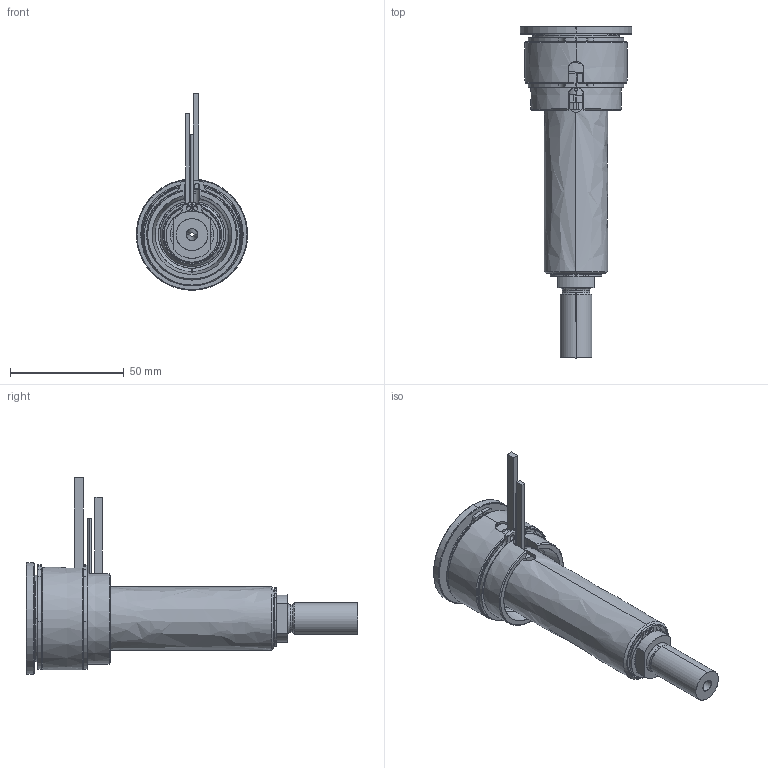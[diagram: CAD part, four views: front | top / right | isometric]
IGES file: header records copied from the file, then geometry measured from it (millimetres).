
Start section: SolidWorks IGES file using analytic representation for surfaces
Global section: file name: C:\Documents and Settings\ws-20\Desktop\TEM\UGBE4502-S-A-P-3 [Ød-2.0 P-25 ØC-09].IGS; native system: SolidWorks 2012; preprocessor: SolidWorks 2012; author: ws-20; date: 120412.153057; units: millimetre
Bounding box: 49 x 146 x 86.5 mm (x, y, z)
Surface area: 49333.3 mm2 (no closed solid volume)
Topology: 0 solids, 0 shells, 167 faces, 3167 edges, 3167 vertices
Faces by surface type: revolution 106, bspline 61
